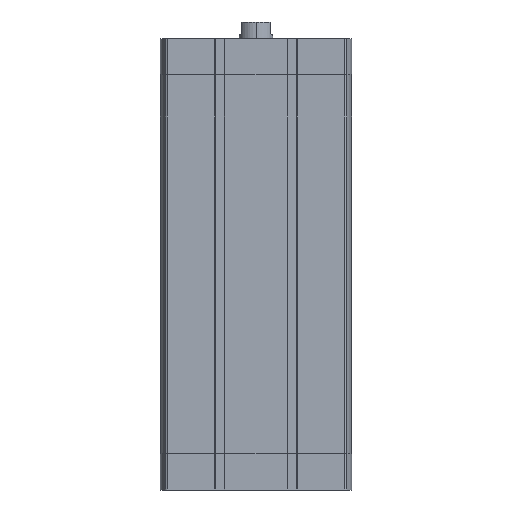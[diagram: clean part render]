
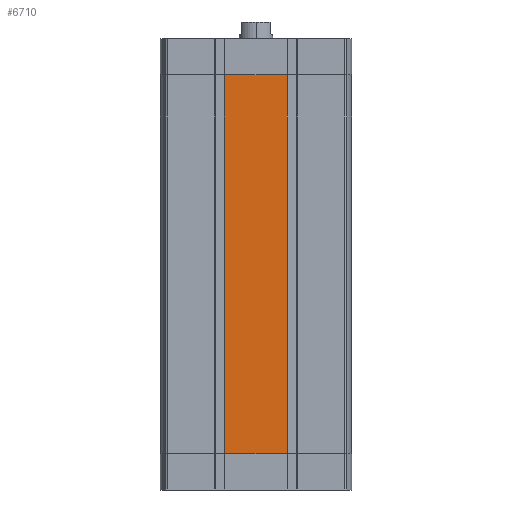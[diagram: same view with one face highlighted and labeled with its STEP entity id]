
A CAD part, left-side view. The second image highlights one B-rep face of the part: STEP entity #6710.
In plain terms, the highlighted planar face has unit normal (-1, 0, 0).
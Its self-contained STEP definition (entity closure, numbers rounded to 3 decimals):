
#877 = DIRECTION ( 'NONE',  ( 0., -1., 0. ) ) ;
#1511 = CARTESIAN_POINT ( 'NONE',  ( -56.5, 18.345, -21.5 ) ) ;
#2145 = FACE_OUTER_BOUND ( 'NONE', #17615, .T. ) ;
#2210 = CARTESIAN_POINT ( 'NONE',  ( -56.5, 18.345, -21.5 ) ) ;
#2347 = DIRECTION ( 'NONE',  ( 0., 0., 1. ) ) ;
#3284 = ORIENTED_EDGE ( 'NONE', *, *, #13138, .T. ) ;
#3597 = LINE ( 'NONE', #6767, #9534 ) ;
#6291 = CARTESIAN_POINT ( 'NONE',  ( -56.5, 18.345, -245.5 ) ) ;
#6697 = CARTESIAN_POINT ( 'NONE',  ( -56.5, -18.345, -245.5 ) ) ;
#6710 = ADVANCED_FACE ( 'NONE', ( #2145 ), #13354, .T. ) ;
#6767 = CARTESIAN_POINT ( 'NONE',  ( -56.5, 18.345, -245.5 ) ) ;
#7000 = CARTESIAN_POINT ( 'NONE',  ( -56.5, 18.345, -245.5 ) ) ;
#8239 = ORIENTED_EDGE ( 'NONE', *, *, #17944, .F. ) ;
#8413 = DIRECTION ( 'NONE',  ( 0., -1., 0. ) ) ;
#8561 = ORIENTED_EDGE ( 'NONE', *, *, #15230, .F. ) ;
#9221 = VECTOR ( 'NONE', #13289, 1000. ) ;
#9534 = VECTOR ( 'NONE', #8413, 1000. ) ;
#10148 = CARTESIAN_POINT ( 'NONE',  ( -56.5, 18.345, -245.5 ) ) ;
#10292 = LINE ( 'NONE', #7000, #9221 ) ;
#10852 = VERTEX_POINT ( 'NONE', #1511 ) ;
#11426 = LINE ( 'NONE', #6697, #16374 ) ;
#12746 = VERTEX_POINT ( 'NONE', #12981 ) ;
#12948 = DIRECTION ( 'NONE',  ( -1., 0., 0. ) ) ;
#12981 = CARTESIAN_POINT ( 'NONE',  ( -56.5, -18.345, -21.5 ) ) ;
#13138 = EDGE_CURVE ( 'NONE', #19568, #18157, #3597, .T. ) ;
#13289 = DIRECTION ( 'NONE',  ( 0., 0., 1. ) ) ;
#13354 = PLANE ( 'NONE',  #15523 ) ;
#13915 = EDGE_CURVE ( 'NONE', #18157, #12746, #11426, .T. ) ;
#14606 = CARTESIAN_POINT ( 'NONE',  ( -56.5, -18.345, -245.5 ) ) ;
#14978 = LINE ( 'NONE', #2210, #16104 ) ;
#15230 = EDGE_CURVE ( 'NONE', #10852, #12746, #14978, .T. ) ;
#15523 = AXIS2_PLACEMENT_3D ( 'NONE', #10148, #12948, #2347 ) ;
#16104 = VECTOR ( 'NONE', #877, 1000. ) ;
#16374 = VECTOR ( 'NONE', #17813, 1000. ) ;
#17615 = EDGE_LOOP ( 'NONE', ( #8561, #8239, #3284, #17995 ) ) ;
#17813 = DIRECTION ( 'NONE',  ( 0., 0., 1. ) ) ;
#17944 = EDGE_CURVE ( 'NONE', #19568, #10852, #10292, .T. ) ;
#17995 = ORIENTED_EDGE ( 'NONE', *, *, #13915, .T. ) ;
#18157 = VERTEX_POINT ( 'NONE', #14606 ) ;
#19568 = VERTEX_POINT ( 'NONE', #6291 ) ;
